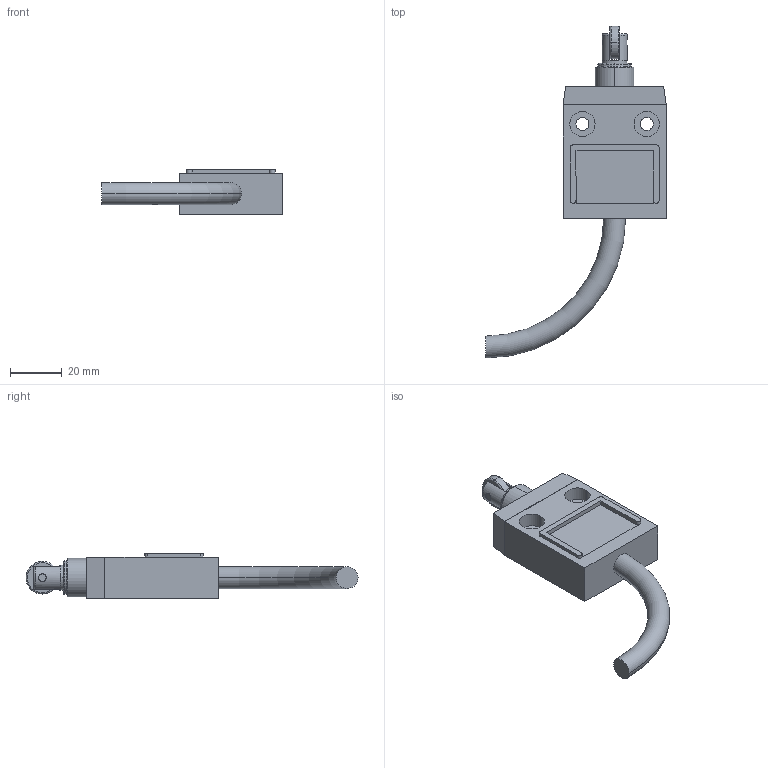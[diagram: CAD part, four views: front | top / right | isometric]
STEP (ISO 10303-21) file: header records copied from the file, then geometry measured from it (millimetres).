
FILE_DESCRIPTION (( 'STEP AP203' ), '1' );
FILE_NAME ('TZ-3113.STEP', '2019-03-27T13:00:37', ( '' ), ( '' ), 'SwSTEP 2.0', 'SolidWorks 2012', '' );
FILE_SCHEMA (( 'CONFIG_CONTROL_DESIGN' ));
Length unit declared in the file: millimetre
Products named in the file (1): TZ-3113
Bounding box: 70 x 128.9 x 17.3 mm (x, y, z)
Volume: 37754.7 mm3; surface area: 11703.9 mm2
Topology: 1 solids, 1 shells, 147 faces, 362 edges, 238 vertices
Faces by surface type: plane 87, cylinder 44, torus 16
Entity records: 4607 total; most frequent: CARTESIAN_POINT 976, DIRECTION 748, ORIENTED_EDGE 724, EDGE_CURVE 362, AXIS2_PLACEMENT_3D 274, VERTEX_POINT 238, LINE 200, VECTOR 200
